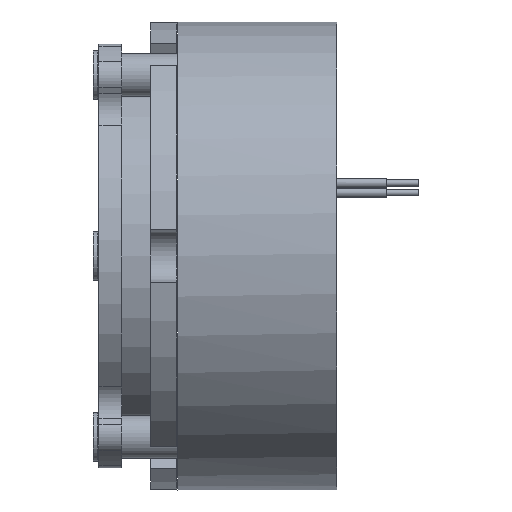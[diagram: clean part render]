
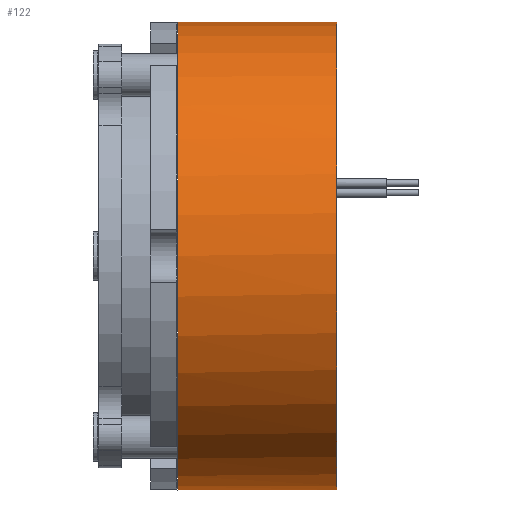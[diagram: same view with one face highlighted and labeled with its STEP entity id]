
A CAD part, front view. The second image highlights one B-rep face of the part: STEP entity #122.
In plain terms, the highlighted cylindrical face has radius 36 mm (diameter 72 mm), a full revolution.
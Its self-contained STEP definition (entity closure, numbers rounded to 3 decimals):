
#8 = CYLINDRICAL_SURFACE ( 'NONE', #1759, 36. ) ;
#98 = DIRECTION ( 'NONE',  ( 0., 0., 1. ) ) ;
#122 = ADVANCED_FACE ( 'NONE', ( #1176, #175 ), #8, .T. ) ;
#130 = VERTEX_POINT ( 'NONE', #1820 ) ;
#175 = FACE_OUTER_BOUND ( 'NONE', #2002, .T. ) ;
#181 = LINE ( 'NONE', #1806, #1458 ) ;
#232 = CARTESIAN_POINT ( 'NONE',  ( 24.5, 32.362, 15.771 ) ) ;
#481 = CARTESIAN_POINT ( 'NONE',  ( 0., 34.235, 11.135 ) ) ;
#527 = CARTESIAN_POINT ( 'NONE',  ( 24.5, 34.235, 11.135 ) ) ;
#554 = ORIENTED_EDGE ( 'NONE', *, *, #2353, .F. ) ;
#982 = ORIENTED_EDGE ( 'NONE', *, *, #2288, .T. ) ;
#1142 = AXIS2_PLACEMENT_3D ( 'NONE', #1832, #2897, #1637 ) ;
#1176 = FACE_OUTER_BOUND ( 'NONE', #1271, .T. ) ;
#1269 = ORIENTED_EDGE ( 'NONE', *, *, #2524, .T. ) ;
#1271 = EDGE_LOOP ( 'NONE', ( #1288, #982, #554, #1269 ) ) ;
#1288 = ORIENTED_EDGE ( 'NONE', *, *, #1358, .T. ) ;
#1358 = EDGE_CURVE ( 'NONE', #3125, #2515, #2592, .T. ) ;
#1418 = CARTESIAN_POINT ( 'NONE',  ( 17.1, 0., 0. ) ) ;
#1458 = VECTOR ( 'NONE', #2056, 1000. ) ;
#1534 = CIRCLE ( 'NONE', #2095, 36. ) ;
#1637 = DIRECTION ( 'NONE',  ( 0., 0., 1. ) ) ;
#1650 = DIRECTION ( 'NONE',  ( -1., 0., 0. ) ) ;
#1661 = CARTESIAN_POINT ( 'NONE',  ( 17.1, 32.362, 15.771 ) ) ;
#1687 = VECTOR ( 'NONE', #2219, 1000. ) ;
#1759 = AXIS2_PLACEMENT_3D ( 'NONE', #3070, #2033, #98 ) ;
#1806 = CARTESIAN_POINT ( 'NONE',  ( 0., 32.362, 15.771 ) ) ;
#1820 = CARTESIAN_POINT ( 'NONE',  ( 17.1, 34.235, 11.135 ) ) ;
#1832 = CARTESIAN_POINT ( 'NONE',  ( 24.5, 0., 0. ) ) ;
#1996 = LINE ( 'NONE', #481, #1687 ) ;
#2002 = EDGE_LOOP ( 'NONE', ( #2571 ) ) ;
#2033 = DIRECTION ( 'NONE',  ( -1., 0., 0. ) ) ;
#2040 = CIRCLE ( 'NONE', #2384, 36. ) ;
#2056 = DIRECTION ( 'NONE',  ( -1., 0., 0. ) ) ;
#2095 = AXIS2_PLACEMENT_3D ( 'NONE', #2389, #1650, #2651 ) ;
#2219 = DIRECTION ( 'NONE',  ( 1., 0., 0. ) ) ;
#2288 = EDGE_CURVE ( 'NONE', #2515, #2390, #181, .T. ) ;
#2290 = EDGE_CURVE ( 'NONE', #2446, #2446, #1534, .T. ) ;
#2353 = EDGE_CURVE ( 'NONE', #130, #2390, #2040, .T. ) ;
#2384 = AXIS2_PLACEMENT_3D ( 'NONE', #1418, #2599, #2584 ) ;
#2389 = CARTESIAN_POINT ( 'NONE',  ( 0., 0., 0. ) ) ;
#2390 = VERTEX_POINT ( 'NONE', #1661 ) ;
#2446 = VERTEX_POINT ( 'NONE', #2791 ) ;
#2515 = VERTEX_POINT ( 'NONE', #232 ) ;
#2524 = EDGE_CURVE ( 'NONE', #130, #3125, #1996, .T. ) ;
#2571 = ORIENTED_EDGE ( 'NONE', *, *, #2290, .F. ) ;
#2584 = DIRECTION ( 'NONE',  ( 0., 1., 0. ) ) ;
#2592 = CIRCLE ( 'NONE', #1142, 36. ) ;
#2599 = DIRECTION ( 'NONE',  ( 1., 0., 0. ) ) ;
#2651 = DIRECTION ( 'NONE',  ( 0., 0., 1. ) ) ;
#2791 = CARTESIAN_POINT ( 'NONE',  ( 0., 0., 36. ) ) ;
#2897 = DIRECTION ( 'NONE',  ( -1., 0., 0. ) ) ;
#3070 = CARTESIAN_POINT ( 'NONE',  ( 0., 0., 0. ) ) ;
#3125 = VERTEX_POINT ( 'NONE', #527 ) ;
